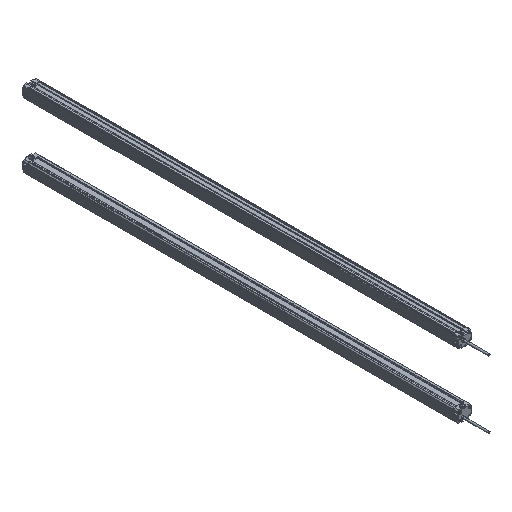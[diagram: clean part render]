
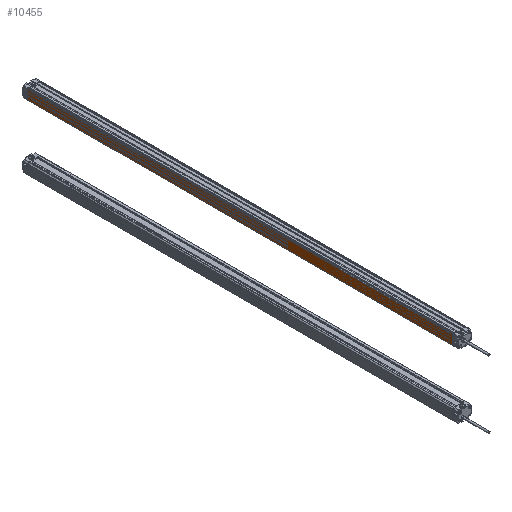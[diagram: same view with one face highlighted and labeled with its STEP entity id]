
A CAD part, isometric view. The second image highlights one B-rep face of the part: STEP entity #10455.
In plain terms, the highlighted planar face has unit normal (-1, 0, 0) as drawn and (1, 0, 0) by its records, which use the part's own axes.
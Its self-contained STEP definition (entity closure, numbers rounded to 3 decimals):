
#266 = VERTEX_POINT ( 'NONE', #2991 ) ;
#343 = CARTESIAN_POINT ( 'NONE',  ( 12.5, -800., 8.293 ) ) ;
#368 = LINE ( 'NONE', #10872, #10544 ) ;
#732 = VECTOR ( 'NONE', #4739, 1000. ) ;
#742 = CARTESIAN_POINT ( 'NONE',  ( 12.5, 0., 8.293 ) ) ;
#816 = EDGE_CURVE ( 'NONE', #10261, #6170, #368, .T. ) ;
#979 = VECTOR ( 'NONE', #6655, 1000. ) ;
#1663 = DIRECTION ( 'NONE',  ( 0., 1., 0. ) ) ;
#2011 = ORIENTED_EDGE ( 'NONE', *, *, #6526, .T. ) ;
#2217 = ORIENTED_EDGE ( 'NONE', *, *, #4043, .F. ) ;
#2751 = EDGE_LOOP ( 'NONE', ( #2217, #10643, #2011, #6432 ) ) ;
#2991 = CARTESIAN_POINT ( 'NONE',  ( 12.5, -800., 8.293 ) ) ;
#3123 = AXIS2_PLACEMENT_3D ( 'NONE', #343, #7022, #6244 ) ;
#3582 = EDGE_CURVE ( 'NONE', #266, #3860, #10098, .T. ) ;
#3860 = VERTEX_POINT ( 'NONE', #4356 ) ;
#4043 = EDGE_CURVE ( 'NONE', #3860, #6170, #4690, .T. ) ;
#4356 = CARTESIAN_POINT ( 'NONE',  ( 12.5, 0., 8.293 ) ) ;
#4690 = LINE ( 'NONE', #742, #979 ) ;
#4739 = DIRECTION ( 'NONE',  ( 0., 0., -1. ) ) ;
#4901 = CARTESIAN_POINT ( 'NONE',  ( 12.5, -800., 8.293 ) ) ;
#5246 = LINE ( 'NONE', #10520, #732 ) ;
#6170 = VERTEX_POINT ( 'NONE', #7546 ) ;
#6244 = DIRECTION ( 'NONE',  ( 0., 0., -1. ) ) ;
#6432 = ORIENTED_EDGE ( 'NONE', *, *, #816, .T. ) ;
#6526 = EDGE_CURVE ( 'NONE', #266, #10261, #5246, .T. ) ;
#6655 = DIRECTION ( 'NONE',  ( 0., 0., -1. ) ) ;
#7022 = DIRECTION ( 'NONE',  ( 1., 0., 0. ) ) ;
#7546 = CARTESIAN_POINT ( 'NONE',  ( 12.5, 0., -9.2 ) ) ;
#8214 = DIRECTION ( 'NONE',  ( 0., 1., 0. ) ) ;
#9437 = VECTOR ( 'NONE', #8214, 1000. ) ;
#10098 = LINE ( 'NONE', #4901, #9437 ) ;
#10261 = VERTEX_POINT ( 'NONE', #10813 ) ;
#10271 = FACE_OUTER_BOUND ( 'NONE', #2751, .T. ) ;
#10385 = PLANE ( 'NONE',  #3123 ) ;
#10455 = ADVANCED_FACE ( 'NONE', ( #10271 ), #10385, .T. ) ;
#10520 = CARTESIAN_POINT ( 'NONE',  ( 12.5, -800., 8.293 ) ) ;
#10544 = VECTOR ( 'NONE', #1663, 1000. ) ;
#10643 = ORIENTED_EDGE ( 'NONE', *, *, #3582, .F. ) ;
#10813 = CARTESIAN_POINT ( 'NONE',  ( 12.5, -800., -9.2 ) ) ;
#10872 = CARTESIAN_POINT ( 'NONE',  ( 12.5, -800., -9.2 ) ) ;
